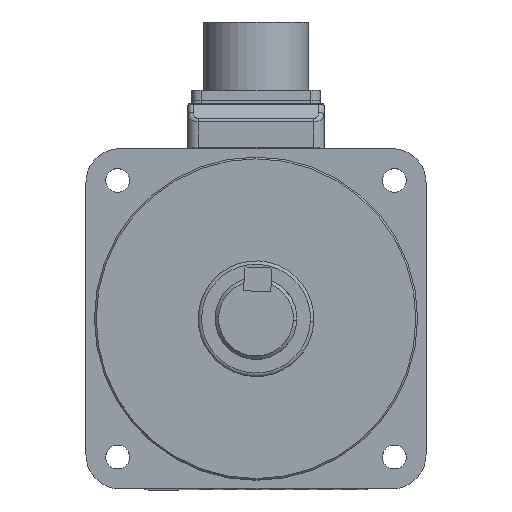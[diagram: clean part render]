
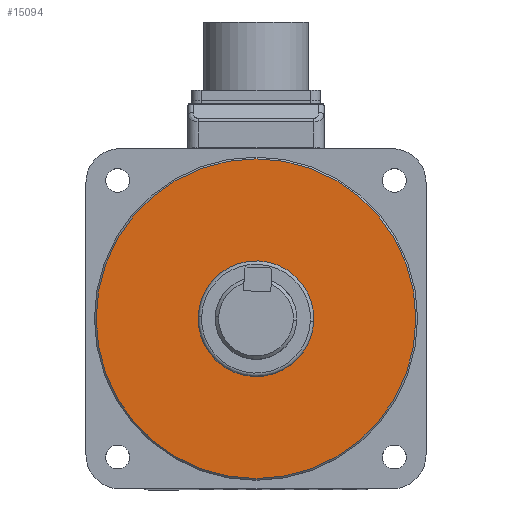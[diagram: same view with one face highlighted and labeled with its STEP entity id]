
A CAD part, top view. The second image highlights one B-rep face of the part: STEP entity #15094.
In plain terms, the highlighted planar face has unit normal (0, 0, 1).
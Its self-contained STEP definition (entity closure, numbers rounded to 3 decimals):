
#1116 = DIRECTION ( 'NONE',  ( 0., 0., 1. ) ) ;
#1835 = VERTEX_POINT ( 'NONE', #31099 ) ;
#7105 = AXIS2_PLACEMENT_3D ( 'NONE', #20787, #45797, #24406 ) ;
#12708 = FACE_OUTER_BOUND ( 'NONE', #43127, .T. ) ;
#15094 = ADVANCED_FACE ( 'NONE', ( #12708 ), #37046, .T. ) ;
#15750 = CARTESIAN_POINT ( 'NONE',  ( 0., 0., 5. ) ) ;
#16233 = CARTESIAN_POINT ( 'NONE',  ( 47., 0., 5. ) ) ;
#19352 = DIRECTION ( 'NONE',  ( 1., 0., 0. ) ) ;
#19913 = EDGE_CURVE ( 'NONE', #33636, #1835, #24304, .T. ) ;
#20787 = CARTESIAN_POINT ( 'NONE',  ( 0., 0., 5. ) ) ;
#22315 = AXIS2_PLACEMENT_3D ( 'NONE', #22627, #1116, #26242 ) ;
#22627 = CARTESIAN_POINT ( 'NONE',  ( 0., 0., 5. ) ) ;
#24304 = CIRCLE ( 'NONE', #7105, 47. ) ;
#24406 = DIRECTION ( 'NONE',  ( 1., 0., 0. ) ) ;
#26242 = DIRECTION ( 'NONE',  ( 1., 0., 0. ) ) ;
#31099 = CARTESIAN_POINT ( 'NONE',  ( -47., 0., 5. ) ) ;
#33636 = VERTEX_POINT ( 'NONE', #16233 ) ;
#34090 = EDGE_CURVE ( 'NONE', #1835, #33636, #45308, .T. ) ;
#37046 = PLANE ( 'NONE',  #40463 ) ;
#40463 = AXIS2_PLACEMENT_3D ( 'NONE', #15750, #40779, #19352 ) ;
#40779 = DIRECTION ( 'NONE',  ( 0., 0., 1. ) ) ;
#41747 = ORIENTED_EDGE ( 'NONE', *, *, #34090, .T. ) ;
#42205 = ORIENTED_EDGE ( 'NONE', *, *, #19913, .T. ) ;
#43127 = EDGE_LOOP ( 'NONE', ( #41747, #42205 ) ) ;
#45308 = CIRCLE ( 'NONE', #22315, 47. ) ;
#45797 = DIRECTION ( 'NONE',  ( 0., 0., 1. ) ) ;
